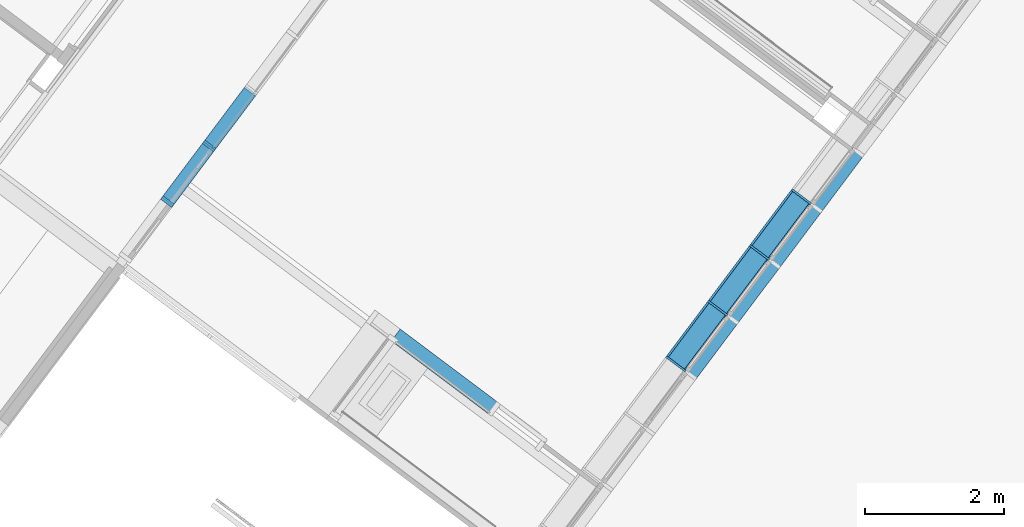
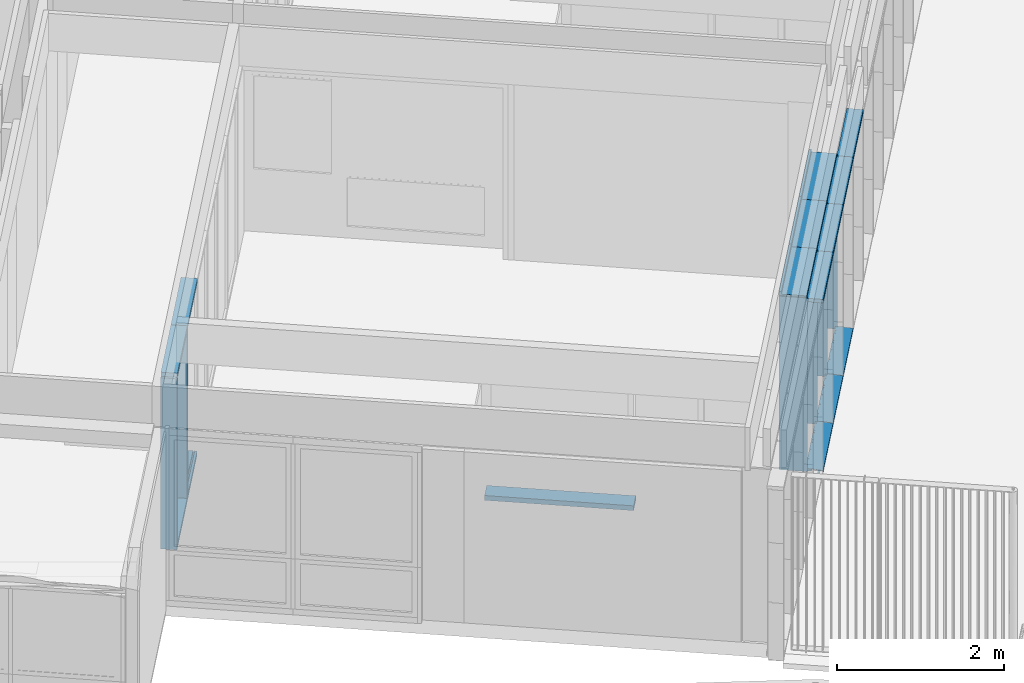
# One storey, part 11 of 243: 21 members, 4 elements without a shape of their own.
"""IFC2X3 building model written with IfcOpenShell, lengths in metres."""

from ifc_helpers import new_model, entity, si_unit, converted_unit, derived_unit, direction, frame, frame_2d, origin, place, context, subcontext, project, spatial, polyline, circle_curve, parameter, trimmed, segment, composite_curve, rectangle, outline, extrude, source, transform, mapped, material, type_object, type_shapes, element, aggregate, save


model = new_model("IFC2X3")

# Units and contexts
model_context = context("Model", 3, precision=1e-05, world=origin(), true_north=direction((6.123031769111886e-17, 1.0)))
body_context = subcontext(model_context, "Body", "Model", "MODEL_VIEW")
ifc_project = project(units=[si_unit("LENGTHUNIT", "METRE"), si_unit("AREAUNIT", "SQUARE_METRE"), si_unit("VOLUMEUNIT", "CUBIC_METRE"), converted_unit("PLANEANGLEUNIT", "DEGREE", entity("IfcRatioMeasure", 0.017453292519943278), si_unit("PLANEANGLEUNIT", "RADIAN"), dimensions=[0, 0, 0, 0, 0, 0, 0]), si_unit("MASSUNIT", "GRAM", prefix="KILO"), derived_unit("MASSDENSITYUNIT", [(si_unit("MASSUNIT", "GRAM", prefix="KILO"), 1), (si_unit("LENGTHUNIT", "METRE"), -3)]), derived_unit("IONCONCENTRATIONUNIT", [(si_unit("MASSUNIT", "GRAM", prefix="KILO"), 1), (si_unit("LENGTHUNIT", "METRE"), -3)]), derived_unit("MOMENTOFINERTIAUNIT", [(si_unit("LENGTHUNIT", "METRE"), 4)]), si_unit("TIMEUNIT", "SECOND"), si_unit("FREQUENCYUNIT", "HERTZ"), si_unit("THERMODYNAMICTEMPERATUREUNIT", "DEGREE_CELSIUS"), derived_unit("THERMALTRANSMITTANCEUNIT", [(si_unit("MASSUNIT", "GRAM", prefix="KILO"), 1), (si_unit("THERMODYNAMICTEMPERATUREUNIT", "KELVIN"), -1), (si_unit("TIMEUNIT", "SECOND"), -3)]), derived_unit("THERMALCONDUCTANCEUNIT", [(si_unit("MASSUNIT", "GRAM", prefix="KILO"), 1), (si_unit("THERMODYNAMICTEMPERATUREUNIT", "KELVIN"), -1), (si_unit("TIMEUNIT", "SECOND"), -3), (si_unit("LENGTHUNIT", "METRE"), 1)]), derived_unit("VOLUMETRICFLOWRATEUNIT", [(si_unit("LENGTHUNIT", "METRE"), 3), (si_unit("TIMEUNIT", "SECOND"), -1)]), derived_unit("MASSFLOWRATEUNIT", [(si_unit("MASSUNIT", "GRAM", prefix="KILO"), 1), (si_unit("TIMEUNIT", "SECOND"), -1)]), derived_unit("ROTATIONALFREQUENCYUNIT", [(si_unit("TIMEUNIT", "SECOND"), -1)]), si_unit("ELECTRICCURRENTUNIT", "AMPERE"), si_unit("ELECTRICVOLTAGEUNIT", "VOLT"), si_unit("POWERUNIT", "WATT"), si_unit("FORCEUNIT", "NEWTON", prefix="KILO"), si_unit("ILLUMINANCEUNIT", "LUX"), si_unit("LUMINOUSFLUXUNIT", "LUMEN"), si_unit("LUMINOUSINTENSITYUNIT", "CANDELA"), derived_unit("USERDEFINED", [(si_unit("MASSUNIT", "GRAM", prefix="KILO"), -1), (si_unit("LENGTHUNIT", "METRE"), -2), (si_unit("TIMEUNIT", "SECOND"), 3), (si_unit("LUMINOUSFLUXUNIT", "LUMEN"), 1)]), derived_unit("USERDEFINED", [(si_unit("MASSUNIT", "GRAM", prefix="KILO"), 1), (si_unit("TIMEUNIT", "SECOND"), -3), (si_unit("LENGTHUNIT", "METRE"), 3), (si_unit("ELECTRICCURRENTUNIT", "AMPERE"), -2)]), derived_unit("SOUNDPOWERUNIT", [(si_unit("MASSUNIT", "GRAM", prefix="KILO"), 1), (si_unit("TIMEUNIT", "SECOND"), -3), (si_unit("LENGTHUNIT", "METRE"), 2)]), derived_unit("SOUNDPRESSUREUNIT", [(si_unit("MASSUNIT", "GRAM", prefix="KILO"), 1), (si_unit("LENGTHUNIT", "METRE"), -1), (si_unit("TIMEUNIT", "SECOND"), -2)]), derived_unit("LINEARVELOCITYUNIT", [(si_unit("LENGTHUNIT", "METRE"), 1), (si_unit("TIMEUNIT", "SECOND"), -1)]), si_unit("PRESSUREUNIT", "PASCAL"), derived_unit("USERDEFINED", [(si_unit("MASSUNIT", "GRAM", prefix="KILO"), 1), (si_unit("LENGTHUNIT", "METRE"), -2), (si_unit("TIMEUNIT", "SECOND"), -2)]), derived_unit("LINEARFORCEUNIT", [(si_unit("MASSUNIT", "GRAM", prefix="KILO"), 1), (si_unit("TIMEUNIT", "SECOND"), -2)]), derived_unit("PLANARFORCEUNIT", [(si_unit("MASSUNIT", "GRAM", prefix="KILO"), 1), (si_unit("LENGTHUNIT", "METRE"), -1), (si_unit("TIMEUNIT", "SECOND"), -2)]), derived_unit("SPECIFICHEATCAPACITYUNIT", [(si_unit("THERMODYNAMICTEMPERATUREUNIT", "KELVIN"), -1), (si_unit("LENGTHUNIT", "METRE"), 2), (si_unit("TIMEUNIT", "SECOND"), -2)]), derived_unit("HEATINGVALUEUNIT", [(si_unit("LENGTHUNIT", "METRE"), 2), (si_unit("TIMEUNIT", "SECOND"), -2)]), derived_unit("VAPORPERMEABILITYUNIT", [(si_unit("LENGTHUNIT", "METRE"), -1), (si_unit("TIMEUNIT", "SECOND"), 1)]), derived_unit("DYNAMICVISCOSITYUNIT", [(si_unit("MASSUNIT", "GRAM", prefix="KILO"), 1), (si_unit("TIMEUNIT", "SECOND"), -1), (si_unit("LENGTHUNIT", "METRE"), -1)]), derived_unit("THERMALEXPANSIONCOEFFICIENTUNIT", [(si_unit("THERMODYNAMICTEMPERATUREUNIT", "KELVIN"), -1)]), derived_unit("MODULUSOFELASTICITYUNIT", [(si_unit("MASSUNIT", "GRAM", prefix="KILO"), 1), (si_unit("LENGTHUNIT", "METRE"), -1), (si_unit("TIMEUNIT", "SECOND"), -2)]), derived_unit("ISOTHERMALMOISTURECAPACITYUNIT", [(si_unit("LENGTHUNIT", "METRE"), 3), (si_unit("MASSUNIT", "GRAM", prefix="KILO"), -1)]), derived_unit("MOISTUREDIFFUSIVITYUNIT", [(si_unit("TIMEUNIT", "SECOND"), -1), (si_unit("LENGTHUNIT", "METRE"), 2)])], contexts=[model_context])

# Site, building, storey
site_placement = place(None, frame((0.0, 0.0, 235.0), z_axis=(0.0, 0.0, 1.0), x_axis=(-0.7996477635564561, 0.6004693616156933, 0.0)))
site = spatial("IfcSite", under=ifc_project, at=site_placement, Name="Default", CompositionType="ELEMENT")
building_placement = place(site_placement, origin())
building = spatial("IfcBuilding", under=site, at=building_placement, CompositionType="ELEMENT")
storey_placement = place(building_placement, origin())
storey = spatial("IfcBuildingStorey", under=building, at=storey_placement, Name="P0- Escola", CompositionType="ELEMENT", Elevation=0.0)

# Curtain wall, members
curtain_wall_type_1 = type_object("IfcCurtainWallType", Name="Muro cortina:MC- INT- a3", PredefinedType="NOTDEFINED")
curtain_wall_1_placement = place(storey_placement, origin())
curtain_wall_1 = element("IfcCurtainWall", 1, at=curtain_wall_1_placement, inside=storey, type_object=curtain_wall_type_1, Name="Muro cortina:MC- INT- a3", ObjectType="Muro cortina:MC- INT- a3")
ifc_material_1 = material(Name="_Fusta massisa- T1")
member_type_1 = type_object("IfcMemberType", Name="Montante rectangular:MC- Fusta- 20x6 cm- Esquerra", PredefinedType="MULLION", material=ifc_material_1)
shared_shape_1 = source(origin(), body_context, "Body", "SweptSolid", [
    extrude(outline(polyline([(-0.12999999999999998, -0.018750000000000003), (0.019999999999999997, -0.018750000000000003), (0.019999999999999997, -0.003750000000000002), (0.04000000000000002, -0.003750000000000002), (0.04000000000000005, -0.01875000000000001), (0.07000000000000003, -0.018750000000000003), (0.06999999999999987, 0.041249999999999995), (-0.12999999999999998, 0.041249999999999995), (-0.12999999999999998, -0.018750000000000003)])), frame((-0.041249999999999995, 0.029999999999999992, -1.0), z_axis=(0.0, 0.0, 1.0), x_axis=(0.0, -1.0, 0.0)), (0.0, 0.0, 1.0), 0.9999999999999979),
])
type_shapes(member_type_1, [shared_shape_1])
member_1_placement = place(curtain_wall_1_placement, frame((13.279147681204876, -20.470191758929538, 2.565), z_axis=(0.0, 1.0, 0.0), x_axis=(0.0, 0.0, 1.0)))
member_1 = element("IfcMember", 2, at=member_1_placement, type_object=member_type_1, material=ifc_material_1, Name="Montante rectangular:MC- Fusta- 20x6 cm- Esquerra", ObjectType="Montante rectangular:MC- Fusta- 20x6 cm- Esquerra", context=body_context, shape_type="MappedRepresentation", body=[
    mapped(shared_shape_1, transform((0.0, 0.0, 0.0), scale=1.0)),
])
member_type_2 = type_object("IfcMemberType", Name="Montante rectangular:MC- Fusta- 20x6 cm- Esquerra", PredefinedType="MULLION", material=ifc_material_1)
shared_shape_2 = source(origin(), body_context, "Body", "SweptSolid", [
    extrude(outline(polyline([(-0.13, -0.018750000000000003), (0.02, -0.018750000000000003), (0.02, -0.003750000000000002), (0.04000000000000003, -0.003750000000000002), (0.04000000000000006, -0.01875000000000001), (0.07000000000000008, -0.018750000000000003), (0.06999999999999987, 0.041249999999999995), (-0.13, 0.041249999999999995), (-0.13, -0.018750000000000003)])), frame((-0.01124999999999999, 0.029999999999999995, -2.5050000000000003), z_axis=(0.0, 0.0, 1.0), x_axis=(0.0, -1.0, 0.0)), (0.0, 0.0, 1.0), 2.5050000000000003),
])
type_shapes(member_type_2, [shared_shape_2])
member_2_placement = place(curtain_wall_1_placement, frame((13.279147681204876, -20.470191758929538, 0.0), z_axis=(0.0, 0.0, -1.0), x_axis=(0.0, 1.0, 0.0)))
member_2 = element("IfcMember", 3, at=member_2_placement, type_object=member_type_2, material=ifc_material_1, Name="Montante rectangular:MC- Fusta- 20x6 cm- Esquerra", ObjectType="Montante rectangular:MC- Fusta- 20x6 cm- Esquerra", context=body_context, shape_type="MappedRepresentation", body=[
    mapped(shared_shape_2, transform((0.0, 0.0, 0.0), scale=1.0)),
])
member_type_3 = type_object("IfcMemberType", Name="Montante rectangular:MC- Fusta- 20x6 cm- Esquerra", PredefinedType="MULLION", material=ifc_material_1)
shared_shape_3 = source(origin(), body_context, "Body", "SweptSolid", [
    extrude(outline(polyline([(-0.13000000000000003, -0.018750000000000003), (0.020000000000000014, -0.018750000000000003), (0.020000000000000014, -0.003750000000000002), (0.040000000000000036, -0.003750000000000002), (0.04000000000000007, -0.01875000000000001), (0.07000000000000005, -0.018750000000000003), (0.06999999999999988, 0.041249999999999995), (-0.13000000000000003, 0.041249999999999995), (-0.13000000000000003, -0.018750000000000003)])), frame((-0.041249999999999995, 0.030000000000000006, -1.0), z_axis=(0.0, 0.0, 1.0), x_axis=(0.0, -1.0, 0.0)), (0.0, 0.0, 1.0), 0.9999999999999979),
])
type_shapes(member_type_3, [shared_shape_3])
member_3_placement = place(curtain_wall_1_placement, frame((13.279147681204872, -19.470191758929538, 2.565), z_axis=(0.0, 1.0, 0.0), x_axis=(0.0, 0.0, 1.0)))
member_3 = element("IfcMember", 4, at=member_3_placement, type_object=member_type_3, material=ifc_material_1, Name="Montante rectangular:MC- Fusta- 20x6 cm- Esquerra", ObjectType="Montante rectangular:MC- Fusta- 20x6 cm- Esquerra", context=body_context, shape_type="MappedRepresentation", body=[
    mapped(shared_shape_3, transform((0.0, 0.0, 0.0), scale=1.0)),
])
member_type_4 = type_object("IfcMemberType", Name="Montante rectangular:MC- Fusta- 20x6 cm- Neutre", PredefinedType="MULLION", material=ifc_material_1)
shared_shape_4 = source(origin(), body_context, "Body", "SweptSolid", [
    extrude(rectangle(XDim=0.2, YDim=0.06, at=frame_2d((-5.551115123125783e-17, 0.0), x_axis=(1.0, 0.0))), frame((0.0, 0.060000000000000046, -2.5050000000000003), z_axis=(0.0, 0.0, 1.0), x_axis=(0.0, -1.0, 0.0)), (0.0, 0.0, 1.0), 2.5050000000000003),
])
type_shapes(member_type_4, [shared_shape_4])
member_4_placement = place(curtain_wall_1_placement, frame((13.279147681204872, -19.470191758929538, 0.0), z_axis=(0.0, 0.0, -1.0), x_axis=(0.0, 1.0, 0.0)))
member_4 = element("IfcMember", 5, at=member_4_placement, type_object=member_type_4, material=ifc_material_1, Name="Montante rectangular:MC- Fusta- 20x6 cm- Neutre", ObjectType="Montante rectangular:MC- Fusta- 20x6 cm- Neutre", context=body_context, shape_type="MappedRepresentation", body=[
    mapped(shared_shape_4, transform((0.0, 0.0, 0.0), scale=1.0)),
])
member_type_5 = type_object("IfcMemberType", Name="Montante rectangular:MC- Fusta- 20x6 cm- Inferior", PredefinedType="MULLION", material=ifc_material_1)
shared_shape_5 = source(origin(), body_context, "Body", "SweptSolid", [
    extrude(outline(polyline([(-0.12999999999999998, -0.018750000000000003), (0.01999999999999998, -0.018750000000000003), (0.01999999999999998, -0.0037500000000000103), (0.04, -0.0037500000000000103), (0.039999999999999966, -0.018750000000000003), (0.06999999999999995, -0.018750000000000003), (0.07000000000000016, 0.041249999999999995), (-0.12999999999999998, 0.041249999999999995), (-0.12999999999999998, -0.018750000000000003)])), frame((-0.041249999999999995, 0.029999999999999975, -0.9399999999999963), z_axis=(0.0, 0.0, 1.0), x_axis=(0.0, -1.0, 0.0)), (0.0, 0.0, 1.0), 0.9399999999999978),
])
type_shapes(member_type_5, [shared_shape_5])
member_5_placement = place(curtain_wall_1_placement, frame((13.279147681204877, -21.440191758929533, 0.0), z_axis=(0.0, -1.0, 0.0), x_axis=(0.0, 0.0, -1.0)))
member_5 = element("IfcMember", 6, at=member_5_placement, type_object=member_type_5, material=ifc_material_1, Name="Montante rectangular:MC- Fusta- 20x6 cm- Inferior", ObjectType="Montante rectangular:MC- Fusta- 20x6 cm- Inferior", context=body_context, shape_type="MappedRepresentation", body=[
    mapped(shared_shape_5, transform((0.0, 0.0, 0.0), scale=1.0)),
])
member_type_6 = type_object("IfcMemberType", Name="Montante rectangular:MC- Fusta- 20x6 cm- Neutre", PredefinedType="MULLION", material=ifc_material_1)
shared_shape_6 = source(origin(), body_context, "Body", "SweptSolid", [
    extrude(rectangle(XDim=0.19999999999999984, YDim=0.06, at=frame_2d((4.85722573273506e-17, 0.0), x_axis=(1.0, 0.0))), frame((-0.03, 0.06000000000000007, -0.9399999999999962), z_axis=(0.0, 0.0, 1.0), x_axis=(0.0, -1.0, 0.0)), (0.0, 0.0, 1.0), 0.9399999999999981),
])
type_shapes(member_type_6, [shared_shape_6])
member_6_placement = place(curtain_wall_1_placement, frame((13.279147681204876, -20.440191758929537, 0.0), z_axis=(0.0, -1.0, 0.0), x_axis=(0.0, 0.0, -1.0)))
member_6 = element("IfcMember", 7, at=member_6_placement, type_object=member_type_6, material=ifc_material_1, Name="Montante rectangular:MC- Fusta- 20x6 cm- Neutre", ObjectType="Montante rectangular:MC- Fusta- 20x6 cm- Neutre", context=body_context, shape_type="MappedRepresentation", body=[
    mapped(shared_shape_6, transform((0.0, 0.0, 0.0), scale=1.0)),
])
aggregate(curtain_wall_1, [member_1, member_2, member_3, member_4, member_5, member_6])

# Curtain wall, member
curtain_wall_type_2 = type_object("IfcCurtainWallType", Name="Muro cortina:MC- INT- k1", PredefinedType="NOTDEFINED")
curtain_wall_2_placement = place(storey_placement, origin())
curtain_wall_2 = element("IfcCurtainWall", 8, at=curtain_wall_2_placement, inside=storey, type_object=curtain_wall_type_2, Name="Muro cortina:MC- INT- k1", ObjectType="Muro cortina:MC- INT- k1")
member_type_7 = type_object("IfcMemberType", Name="Montante rectangular:MC- Fusta- 21,4x7 cm- Neutre- Bany infantil", PredefinedType="MULLION", material=ifc_material_1)
shared_shape_7 = source(origin(), body_context, "Body", "SweptSolid", [
    extrude(rectangle(XDim=0.21400000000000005, YDim=0.06999999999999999, at=frame_2d((-5.551115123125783e-17, 0.0), x_axis=(1.0, 0.0))), frame((0.0, -0.08099999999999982, -1.8010000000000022), z_axis=(0.0, 0.0, 1.0), x_axis=(0.0, -1.0, 0.0)), (0.0, 0.0, 1.0), 1.8010000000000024),
])
type_shapes(member_type_7, [shared_shape_7])
member_7_placement = place(curtain_wall_2_placement, frame((7.769147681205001, -19.827191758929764, 0.8199999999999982), z_axis=(-1.0, 0.0, 0.0), x_axis=(0.0, 0.0, 1.0)))
member_7 = element("IfcMember", 9, at=member_7_placement, type_object=member_type_7, material=ifc_material_1, Name="Montante rectangular:MC- Fusta- 21,4x7 cm- Neutre- Bany infantil", ObjectType="Montante rectangular:MC- Fusta- 21,4x7 cm- Neutre- Bany infantil", context=body_context, shape_type="MappedRepresentation", body=[
    mapped(shared_shape_7, transform((0.0, 0.0, 0.0), scale=1.0)),
])
aggregate(curtain_wall_2, [member_7])

# Curtain wall, members
curtain_wall_type_3 = type_object("IfcCurtainWallType", Name="Muro cortina:MC- EXT- MC2", PredefinedType="NOTDEFINED")
curtain_wall_3_placement = place(storey_placement, origin())
curtain_wall_3 = element("IfcCurtainWall", 10, at=curtain_wall_3_placement, inside=storey, type_object=curtain_wall_type_3, Name="Muro cortina:MC- EXT- MC2", ObjectType="Muro cortina:MC- EXT- MC2")
ifc_material_2 = material(Name="_Alumini- T1- Perfil")
member_type_8 = type_object("IfcMemberType", Name="Montante rectangular:MC- Alu- 140x52,5 cm- Fa patis- Superior", PredefinedType="MULLION", material=ifc_material_2)
shared_shape_8 = source(origin(), body_context, "Body", "SweptSolid", [
    extrude(outline(polyline([(-0.11366666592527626, -0.021249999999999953), (0.026333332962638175, -0.021249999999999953), (0.026333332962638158, -0.010000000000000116), (0.0873333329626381, -0.010000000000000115), (0.0873333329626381, 0.03125000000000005), (-0.11366666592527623, 0.031250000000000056), (-0.11366666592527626, -0.021249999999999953)])), frame((-0.031250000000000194, 0.0273333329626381, -1.0), z_axis=(0.0, 0.0, 1.0), x_axis=(0.0, -1.0, 0.0)), (0.0, 0.0, 1.0), 1.0000000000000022),
])
type_shapes(member_type_8, [shared_shape_8])
member_8_placement = place(curtain_wall_3_placement, frame((5.885147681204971, -23.990191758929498, 2.525), z_axis=(0.0, -1.0, 0.0), x_axis=(0.0, 0.0, 1.0)))
member_8 = element("IfcMember", 11, at=member_8_placement, type_object=member_type_8, material=ifc_material_2, Name="Montante rectangular:MC- Alu- 140x52,5 cm- Fa patis- Superior", ObjectType="Montante rectangular:MC- Alu- 140x52,5 cm- Fa patis- Superior", context=body_context, shape_type="MappedRepresentation", body=[
    mapped(shared_shape_8, transform((0.0, 0.0, 0.0), scale=1.0)),
])
member_9_placement = place(curtain_wall_3_placement, frame((5.8851476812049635, -24.990191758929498, 2.525), z_axis=(0.0, -1.0, 0.0), x_axis=(0.0, 0.0, 1.0)))
member_9 = element("IfcMember", 12, at=member_9_placement, type_object=member_type_8, material=ifc_material_2, Name="Montante rectangular:MC- Alu- 140x52,5 cm- Fa patis- Superior", ObjectType="Montante rectangular:MC- Alu- 140x52,5 cm- Fa patis- Superior", context=body_context, shape_type="MappedRepresentation", body=[
    mapped(shared_shape_8, transform((0.0, 0.0, 0.0), scale=1.0)),
])
member_10_placement = place(curtain_wall_3_placement, frame((5.885147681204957, -25.990191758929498, 2.525), z_axis=(0.0, -1.0, 0.0), x_axis=(0.0, 0.0, 1.0)))
member_10 = element("IfcMember", 13, at=member_10_placement, type_object=member_type_8, material=ifc_material_2, Name="Montante rectangular:MC- Alu- 140x52,5 cm- Fa patis- Superior", ObjectType="Montante rectangular:MC- Alu- 140x52,5 cm- Fa patis- Superior", context=body_context, shape_type="MappedRepresentation", body=[
    mapped(shared_shape_8, transform((0.0, 0.0, 0.0), scale=1.0)),
])
member_type_9 = type_object("IfcMemberType", Name="Montante rectangular:MC- Alu- 140x52,5 cm- Fa patis- inferior", PredefinedType="MULLION", material=ifc_material_2)
shared_shape_9 = source(origin(), body_context, "Body", "SweptSolid", [
    extrude(outline(composite_curve([segment(polyline([(0.12786724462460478, -0.02586710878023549), (0.14416724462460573, -0.025867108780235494)]), True, "CONTINUOUS"), segment(polyline([(0.14416724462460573, -0.025867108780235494), (0.14416724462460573, 0.009132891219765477)]), True, "CONTINUOUS"), segment(polyline([(0.14416724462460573, 0.009132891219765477), (0.06786724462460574, 0.009132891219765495)]), True, "CONTINUOUS"), segment(polyline([(0.06786724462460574, 0.009132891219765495), (0.06786724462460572, -0.021159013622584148)]), True, "CONTINUOUS"), segment(polyline([(0.06786724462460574, -0.02115901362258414), (-0.030132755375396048, -0.012332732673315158)]), True, "CONTINUOUS"), segment(polyline([(-0.030132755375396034, -0.012332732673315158), (-0.030132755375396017, 0.027132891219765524)]), True, "CONTINUOUS"), segment(polyline([(-0.03013275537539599, 0.02713289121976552), (-0.0021327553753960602, 0.02713289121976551)]), True, "CONTINUOUS"), segment(polyline([(-0.0021327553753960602, 0.027132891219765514), (-0.002132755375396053, 0.029132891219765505)]), True, "CONTINUOUS"), segment(polyline([(-0.002132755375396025, 0.029132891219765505), (-0.03213275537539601, 0.029132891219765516)]), True, "CONTINUOUS"), segment(polyline([(-0.03213275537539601, 0.029132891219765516), (-0.03213275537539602, -0.012152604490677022)]), True, "CONTINUOUS"), segment(polyline([(-0.03213275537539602, -0.012152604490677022), (-0.07013275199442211, -0.008730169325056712)]), True, "CONTINUOUS"), segment(polyline([(-0.07013275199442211, -0.008730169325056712), (-0.07013275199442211, 0.005766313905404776)]), True, "CONTINUOUS"), segment(trimmed(circle_curve(frame_2d((-0.06963275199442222, 0.005766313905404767), x_axis=(-1.0, 0.0)), 0.0004999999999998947), [parameter(270.0000000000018)], [parameter(0.0)], True, "PARAMETER"), False, "CONTINUOUS"), segment(polyline([(-0.06963275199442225, 0.00626631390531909), (-0.06213275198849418, 0.006266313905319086)]), True, "CONTINUOUS"), segment(polyline([(-0.06213275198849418, 0.006266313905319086), (-0.062132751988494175, 0.008266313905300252)]), True, "CONTINUOUS"), segment(polyline([(-0.062132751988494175, 0.008266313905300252), (-0.07013275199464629, 0.008266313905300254)]), True, "CONTINUOUS"), segment(trimmed(circle_curve(frame_2d((-0.07013275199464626, 0.006266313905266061), x_axis=(0.0, 1.0)), 0.0020000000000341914), [parameter(0.0)], [parameter(90.00000002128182)], True, "PARAMETER"), True, "CONTINUOUS"), segment(polyline([(-0.07213275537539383, 0.006266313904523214), (-0.07213275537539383, -0.008730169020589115)]), True, "CONTINUOUS"), segment(trimmed(circle_curve(frame_2d((-0.07013275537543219, -0.008730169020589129), x_axis=(-1.0, 0.0)), 0.001999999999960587), [parameter(0.0)], [parameter(84.85359280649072)], True, "PARAMETER"), True, "CONTINUOUS"), segment(polyline([(-0.07031215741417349, -0.01072210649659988), (0.06786724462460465, -0.023167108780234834)]), True, "CONTINUOUS"), segment(polyline([(0.06786724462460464, -0.023167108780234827), (0.12786724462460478, -0.023167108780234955)]), True, "CONTINUOUS"), segment(polyline([(0.12786724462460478, -0.023167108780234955), (0.12786724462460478, -0.02586710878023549)]), True, "CONTINUOUS")], self_intersect=False)), frame((-0.029132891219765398, 0.06786724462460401, -1.0), z_axis=(0.0, 0.0, 1.0), x_axis=(0.0, -1.0, 0.0)), (0.0, 0.0, 1.0), 1.0000000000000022),
])
type_shapes(member_type_9, [shared_shape_9])
member_11_placement = place(curtain_wall_3_placement, frame((5.885147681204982, -21.990191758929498, -0.02), z_axis=(0.0, 1.0, 0.0), x_axis=(0.0, 0.0, -1.0)))
member_11 = element("IfcMember", 14, at=member_11_placement, type_object=member_type_9, material=ifc_material_2, Name="Montante rectangular:MC- Alu- 140x52,5 cm- Fa patis- inferior", ObjectType="Montante rectangular:MC- Alu- 140x52,5 cm- Fa patis- inferior", context=body_context, shape_type="MappedRepresentation", body=[
    mapped(shared_shape_9, transform((0.0, 0.0, 0.0), scale=1.0)),
])
member_12_placement = place(curtain_wall_3_placement, frame((5.885147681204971, -23.990191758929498, -0.02), z_axis=(0.0, 1.0, 0.0), x_axis=(0.0, 0.0, -1.0)))
member_12 = element("IfcMember", 15, at=member_12_placement, type_object=member_type_9, material=ifc_material_2, Name="Montante rectangular:MC- Alu- 140x52,5 cm- Fa patis- inferior", ObjectType="Montante rectangular:MC- Alu- 140x52,5 cm- Fa patis- inferior", context=body_context, shape_type="MappedRepresentation", body=[
    mapped(shared_shape_9, transform((0.0, 0.0, 0.0), scale=1.0)),
])
member_type_10 = type_object("IfcMemberType", Name="Montante rectangular:MC- Alu- 140x52,5 cm- Fa patis- Superior", PredefinedType="MULLION", material=ifc_material_2)
shared_shape_10 = source(origin(), body_context, "Body", "SweptSolid", [
    extrude(outline(polyline([(-0.11366666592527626, -0.021249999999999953), (0.026333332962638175, -0.021249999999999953), (0.026333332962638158, -0.010000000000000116), (0.0873333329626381, -0.010000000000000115), (0.0873333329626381, 0.03125000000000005), (-0.11366666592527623, 0.031250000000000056), (-0.11366666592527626, -0.021249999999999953)])), frame((-0.031250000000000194, 0.0273333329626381, -1.0), z_axis=(0.0, 0.0, 1.0), x_axis=(0.0, -1.0, 0.0)), (0.0, 0.0, 1.0), 0.9999999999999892),
])
type_shapes(member_type_10, [shared_shape_10])
member_13_placement = place(curtain_wall_3_placement, frame((5.885147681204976, -22.990191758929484, 2.525), z_axis=(0.0, -1.0, 0.0), x_axis=(0.0, 0.0, 1.0)))
member_13 = element("IfcMember", 16, at=member_13_placement, type_object=member_type_10, material=ifc_material_2, Name="Montante rectangular:MC- Alu- 140x52,5 cm- Fa patis- Superior", ObjectType="Montante rectangular:MC- Alu- 140x52,5 cm- Fa patis- Superior", context=body_context, shape_type="MappedRepresentation", body=[
    mapped(shared_shape_10, transform((0.0, 0.0, 0.0), scale=1.0)),
])
member_type_11 = type_object("IfcMemberType", Name="Montante rectangular:MC- Alu- 140x52,5 cm- Fa patis- inferior", PredefinedType="MULLION", material=ifc_material_2)
shared_shape_11 = source(origin(), body_context, "Body", "SweptSolid", [
    extrude(outline(composite_curve([segment(polyline([(0.1278672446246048, -0.02586710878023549), (0.14416724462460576, -0.025867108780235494)]), True, "CONTINUOUS"), segment(polyline([(0.14416724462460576, -0.025867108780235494), (0.1441672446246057, 0.009132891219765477)]), True, "CONTINUOUS"), segment(polyline([(0.1441672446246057, 0.009132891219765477), (0.06786724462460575, 0.009132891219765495)]), True, "CONTINUOUS"), segment(polyline([(0.06786724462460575, 0.009132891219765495), (0.06786724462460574, -0.021159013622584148)]), True, "CONTINUOUS"), segment(polyline([(0.06786724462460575, -0.02115901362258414), (-0.030132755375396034, -0.012332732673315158)]), True, "CONTINUOUS"), segment(polyline([(-0.03013275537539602, -0.012332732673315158), (-0.030132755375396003, 0.027132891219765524)]), True, "CONTINUOUS"), segment(polyline([(-0.030132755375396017, 0.02713289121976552), (-0.0021327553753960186, 0.02713289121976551)]), True, "CONTINUOUS"), segment(polyline([(-0.0021327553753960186, 0.027132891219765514), (-0.0021327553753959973, 0.029132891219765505)]), True, "CONTINUOUS"), segment(polyline([(-0.0021327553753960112, 0.029132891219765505), (-0.032132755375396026, 0.029132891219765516)]), True, "CONTINUOUS"), segment(polyline([(-0.032132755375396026, 0.029132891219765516), (-0.03213275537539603, -0.012152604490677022)]), True, "CONTINUOUS"), segment(polyline([(-0.03213275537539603, -0.012152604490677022), (-0.0701327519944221, -0.008730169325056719)]), True, "CONTINUOUS"), segment(polyline([(-0.0701327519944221, -0.008730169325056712), (-0.0701327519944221, 0.005766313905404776)]), True, "CONTINUOUS"), segment(trimmed(circle_curve(frame_2d((-0.0696327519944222, 0.0057663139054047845), x_axis=(-1.0, 0.0)), 0.0004999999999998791), [parameter(269.999999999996)], [parameter(0.0)], True, "PARAMETER"), False, "CONTINUOUS"), segment(polyline([(-0.0696327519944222, 0.00626631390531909), (-0.06213275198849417, 0.006266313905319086)]), True, "CONTINUOUS"), segment(polyline([(-0.06213275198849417, 0.006266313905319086), (-0.06213275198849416, 0.008266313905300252)]), True, "CONTINUOUS"), segment(polyline([(-0.06213275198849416, 0.008266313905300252), (-0.07013275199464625, 0.008266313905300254)]), True, "CONTINUOUS"), segment(trimmed(circle_curve(frame_2d((-0.07013275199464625, 0.006266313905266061), x_axis=(0.0, 1.0)), 0.0020000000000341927), [parameter(0.0)], [parameter(90.00000002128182)], True, "PARAMETER"), True, "CONTINUOUS"), segment(polyline([(-0.07213275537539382, 0.006266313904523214), (-0.07213275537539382, -0.008730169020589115)]), True, "CONTINUOUS"), segment(trimmed(circle_curve(frame_2d((-0.07013275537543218, -0.008730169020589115), x_axis=(-1.0, 0.0)), 0.0019999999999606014), [parameter(0.0)], [parameter(84.8535928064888)], True, "PARAMETER"), True, "CONTINUOUS"), segment(polyline([(-0.07031215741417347, -0.01072210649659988), (0.06786724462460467, -0.023167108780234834)]), True, "CONTINUOUS"), segment(polyline([(0.06786724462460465, -0.023167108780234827), (0.12786724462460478, -0.023167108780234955)]), True, "CONTINUOUS"), segment(polyline([(0.12786724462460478, -0.023167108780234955), (0.1278672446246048, -0.02586710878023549)]), True, "CONTINUOUS")], self_intersect=False)), frame((-0.029132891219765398, 0.06786724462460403, -1.0), z_axis=(0.0, 0.0, 1.0), x_axis=(0.0, -1.0, 0.0)), (0.0, 0.0, 1.0), 0.9999999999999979),
])
type_shapes(member_type_11, [shared_shape_11])
member_14_placement = place(curtain_wall_3_placement, frame((5.885147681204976, -22.990191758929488, -0.02), z_axis=(0.0, 1.0, 0.0), x_axis=(0.0, 0.0, -1.0)))
member_14 = element("IfcMember", 17, at=member_14_placement, type_object=member_type_11, material=ifc_material_2, Name="Montante rectangular:MC- Alu- 140x52,5 cm- Fa patis- inferior", ObjectType="Montante rectangular:MC- Alu- 140x52,5 cm- Fa patis- inferior", context=body_context, shape_type="MappedRepresentation", body=[
    mapped(shared_shape_11, transform((0.0, 0.0, 0.0), scale=1.0)),
])
aggregate(curtain_wall_3, [member_8, member_9, member_10, member_11, member_12, member_13, member_14])

curtain_wall_type_4 = type_object("IfcCurtainWallType", Name="Muro cortina:MC- INT- k7- Aules infantil", PredefinedType="NOTDEFINED")
curtain_wall_4_placement = place(storey_placement, origin())
curtain_wall_4 = element("IfcCurtainWall", 18, at=curtain_wall_4_placement, inside=storey, type_object=curtain_wall_type_4, Name="Muro cortina:MC- INT- k7- Aules infantil", ObjectType="Muro cortina:MC- INT- k7- Aules infantil")
member_type_12 = type_object("IfcMemberType", Name="Montante rectangular:MC- Fusta- 35x3 cm- Pati aules- Remat superior", PredefinedType="MULLION", material=ifc_material_1)
shared_shape_12 = source(origin(), body_context, "Body", "SweptSolid", [
    extrude(outline(polyline([(-0.2133333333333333, -0.02666666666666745), (0.12166666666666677, -0.02666666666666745), (0.1216666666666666, 0.03333333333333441), (0.09166666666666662, 0.03333333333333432), (0.0916666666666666, -0.006666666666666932), (-0.21333333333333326, -0.006666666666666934), (-0.2133333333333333, -0.02666666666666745)])), frame((-0.033333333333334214, 0.026666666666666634, -1.0), z_axis=(0.0, 0.0, 1.0), x_axis=(0.0, -1.0, 0.0)), (0.0, 0.0, 1.0), 0.9999999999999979),
])
type_shapes(member_type_12, [shared_shape_12])
member_15_placement = place(curtain_wall_4_placement, frame((6.185147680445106, -24.99019175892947, 2.6), z_axis=(0.0, -1.0, 0.0), x_axis=(0.0, 0.0, 1.0)))
member_15 = element("IfcMember", 19, at=member_15_placement, type_object=member_type_12, material=ifc_material_1, Name="Montante rectangular:MC- Fusta- 35x3 cm- Pati aules- Remat superior", ObjectType="Montante rectangular:MC- Fusta- 35x3 cm- Pati aules- Remat superior", context=body_context, shape_type="MappedRepresentation", body=[
    mapped(shared_shape_12, transform((0.0, 0.0, 0.0), scale=1.0)),
])
member_16_placement = place(curtain_wall_4_placement, frame((6.185147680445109, -23.99019175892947, 2.6), z_axis=(0.0, -1.0, 0.0), x_axis=(0.0, 0.0, 1.0)))
member_16 = element("IfcMember", 20, at=member_16_placement, type_object=member_type_12, material=ifc_material_1, Name="Montante rectangular:MC- Fusta- 35x3 cm- Pati aules- Remat superior", ObjectType="Montante rectangular:MC- Fusta- 35x3 cm- Pati aules- Remat superior", context=body_context, shape_type="MappedRepresentation", body=[
    mapped(shared_shape_12, transform((0.0, 0.0, 0.0), scale=1.0)),
])
member_17_placement = place(curtain_wall_4_placement, frame((6.18514768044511, -22.99019175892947, 2.6), z_axis=(0.0, -1.0, 0.0), x_axis=(0.0, 0.0, 1.0)))
member_17 = element("IfcMember", 21, at=member_17_placement, type_object=member_type_12, material=ifc_material_1, Name="Montante rectangular:MC- Fusta- 35x3 cm- Pati aules- Remat superior", ObjectType="Montante rectangular:MC- Fusta- 35x3 cm- Pati aules- Remat superior", context=body_context, shape_type="MappedRepresentation", body=[
    mapped(shared_shape_12, transform((0.0, 0.0, 0.0), scale=1.0)),
])
member_type_13 = type_object("IfcMemberType", Name="Montante rectangular:MC- Fusta- 35x3 cm- Centre", PredefinedType="MULLION", material=ifc_material_1)
shared_shape_13 = source(origin(), body_context, "Body", "SweptSolid", [
    extrude(rectangle(XDim=0.3450000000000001, YDim=0.030000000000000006, at=frame_2d((0.0, 1.3964523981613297e-16), x_axis=(1.0, 0.0))), frame((0.0, 0.07750000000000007, -2.5399999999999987), z_axis=(0.0, 0.0, 1.0), x_axis=(0.0, -1.0, 0.0)), (0.0, 0.0, 1.0), 2.5399999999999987),
])
type_shapes(member_type_13, [shared_shape_13])
member_18_placement = place(curtain_wall_4_placement, frame((6.185147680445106, -24.990191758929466, 0.0), z_axis=(0.0, 0.0, -1.0), x_axis=(0.0, -1.0, 0.0)))
member_18 = element("IfcMember", 22, at=member_18_placement, type_object=member_type_13, material=ifc_material_1, Name="Montante rectangular:MC- Fusta- 35x3 cm- Centre", ObjectType="Montante rectangular:MC- Fusta- 35x3 cm- Centre", context=body_context, shape_type="MappedRepresentation", body=[
    mapped(shared_shape_13, transform((0.0, 0.0, 0.0), scale=1.0)),
])
member_19_placement = place(curtain_wall_4_placement, frame((6.185147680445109, -23.99019175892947, 0.0), z_axis=(0.0, 0.0, -1.0), x_axis=(0.0, -1.0, 0.0)))
member_19 = element("IfcMember", 23, at=member_19_placement, type_object=member_type_13, material=ifc_material_1, Name="Montante rectangular:MC- Fusta- 35x3 cm- Centre", ObjectType="Montante rectangular:MC- Fusta- 35x3 cm- Centre", context=body_context, shape_type="MappedRepresentation", body=[
    mapped(shared_shape_13, transform((0.0, 0.0, 0.0), scale=1.0)),
])
member_20_placement = place(curtain_wall_4_placement, frame((6.18514768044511, -22.99019175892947, 0.0), z_axis=(0.0, 0.0, -1.0), x_axis=(0.0, -1.0, 0.0)))
member_20 = element("IfcMember", 24, at=member_20_placement, type_object=member_type_13, material=ifc_material_1, Name="Montante rectangular:MC- Fusta- 35x3 cm- Centre", ObjectType="Montante rectangular:MC- Fusta- 35x3 cm- Centre", context=body_context, shape_type="MappedRepresentation", body=[
    mapped(shared_shape_13, transform((0.0, 0.0, 0.0), scale=1.0)),
])
member_21_placement = place(curtain_wall_4_placement, frame((6.1851476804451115, -21.990191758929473, 0.0), z_axis=(0.0, 0.0, -1.0), x_axis=(0.0, -1.0, 0.0)))
member_21 = element("IfcMember", 25, at=member_21_placement, type_object=member_type_13, material=ifc_material_1, Name="Montante rectangular:MC- Fusta- 35x3 cm- Centre", ObjectType="Montante rectangular:MC- Fusta- 35x3 cm- Centre", context=body_context, shape_type="MappedRepresentation", body=[
    mapped(shared_shape_13, transform((0.0, 0.0, 0.0), scale=1.0)),
])
aggregate(curtain_wall_4, [member_15, member_18, member_16, member_19, member_17, member_20, member_21])

save(model, "model.ifc")
